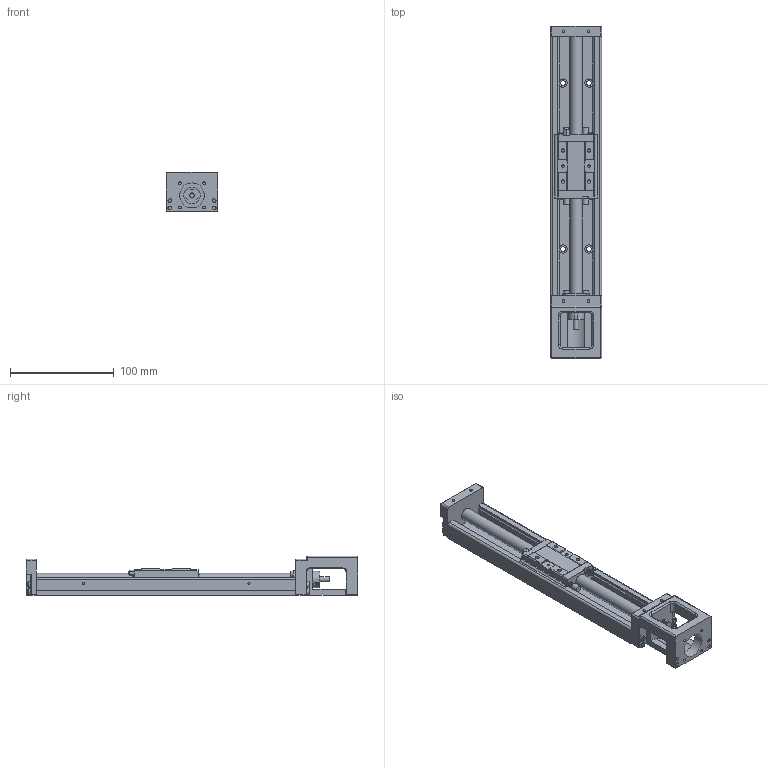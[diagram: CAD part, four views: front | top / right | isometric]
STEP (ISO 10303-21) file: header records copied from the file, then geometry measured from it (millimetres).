
FILE_DESCRIPTION(/* description */ (''),/* implementation_level */ '2;1');
FILE_NAME(/* name */ 'FKL50E250 02C7.stp',/* time_stamp */ '2018-12-26T10:07:48+08:00',/* author */ (''),/* organization */ (''),/* preprocessor_version */ 'ST-DEVELOPER v16',/* originating_system */ 'SIEMENS PLM Software NX 10.0',/* authorisation */ '');
FILE_SCHEMA (('AUTOMOTIVE_DESIGN { 1 0 10303 214 3 1 1 1 }'));
Length unit declared in the file: millimetre
Products named in the file (3): 滑块.KK50-A1; 轨道.KK50-250; FKL50E250 02C7
Assembly tree (2 placements, depth 2):
  FKL50E250 02C7
    轨道.KK50-250
    滑块.KK50-A1
Bounding box: 50 x 320 x 38.5 mm (x, y, z)
Volume: 241997.3 mm3; surface area: 83423.1 mm2
Topology: 2 solids, 5 shells, 616 faces, 1628 edges, 1043 vertices
Faces by surface type: plane 328, cylinder 185, cone 65, torus 28, sphere 4, extrusion 4, bspline 2
Full cylindrical faces by diameter (mm): 2.05 x4, 2.5 x10, 3.3 x5, 3.4 x4, 4 x1, 4.5 x6, 5 x1, 5.5 x16, 6 x4, 8 x6, 11 x1, 12 x2, 24 x1
Entity records: 18936 total; most frequent: CARTESIAN_POINT 3998, DIRECTION 3042, ORIENTED_EDGE 2928, EDGE_CURVE 1464, AXIS2_PLACEMENT_3D 1075, VERTEX_POINT 985, VECTOR 892, LINE 888
